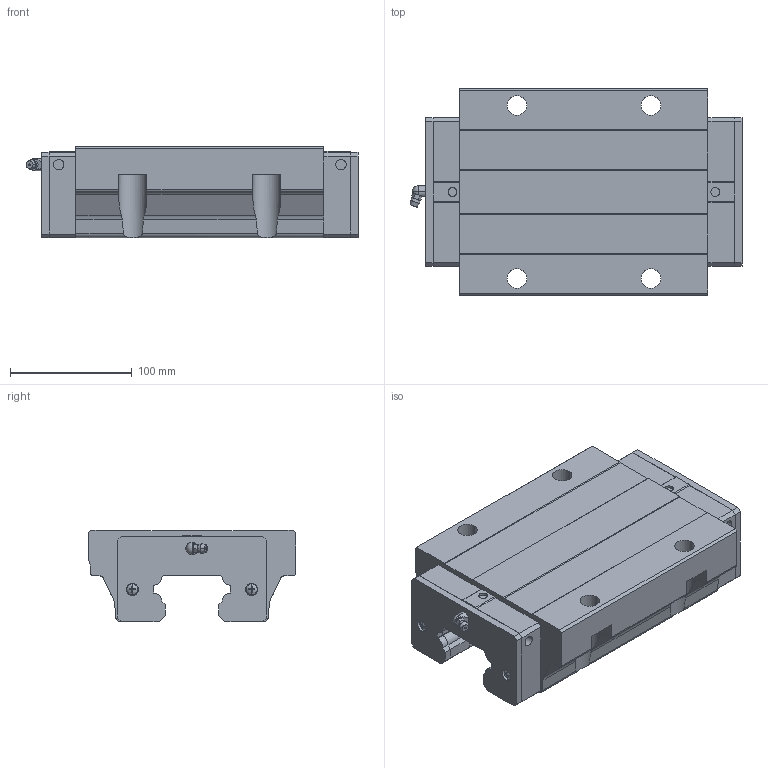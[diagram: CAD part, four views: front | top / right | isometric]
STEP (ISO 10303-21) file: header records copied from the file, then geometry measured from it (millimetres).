
FILE_DESCRIPTION(('starvars output'),'2;1');
FILE_NAME('cv20190626223146000041774.stp','22:31:46 2019/06/26',( 'Thomas Industrial Network Germany GmbH'),( 'Thomas Industrial Network Germany GmbH'),'unknown preprocess','ACIS' ,'unknown authorization');
FILE_SCHEMA(('CONFIG_CONTROL_DESIGN {UNKNOWN IMPLEMENTATION LEVEL}'));
Length unit declared in the file: millimetre
Products named in the file (10): PRODUCT_ID_1; PRODUCT_ID_2; PRODUCT_ID_3; PRODUCT_ID_4; PRODUCT_ID_5; PRODUCT_ID_6; PRODUCT_ID_7; PRODUCT_ID_8; PRODUCT_ID_9; PRODUCT_ID_10
Bounding box: 272.5 x 170 x 75 mm (x, y, z)
Volume: 2203018.8 mm3; surface area: 221657.2 mm2
Topology: 10 solids, 10 shells, 406 faces, 1067 edges, 691 vertices
Faces by surface type: plane 267, cylinder 81, cone 46, sphere 12
Entity records: 12130 total; most frequent: CARTESIAN_POINT 2131, ORIENTED_EDGE 2126, DIRECTION 1627, EDGE_CURVE 1063, VERTEX_POINT 691, VECTOR 661, LINE 661, AXIS2_PLACEMENT_3D 483
